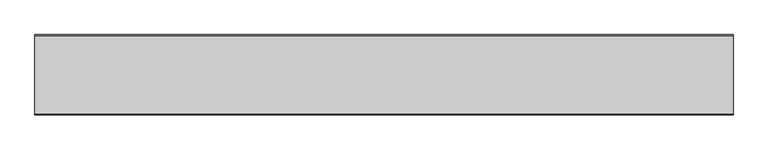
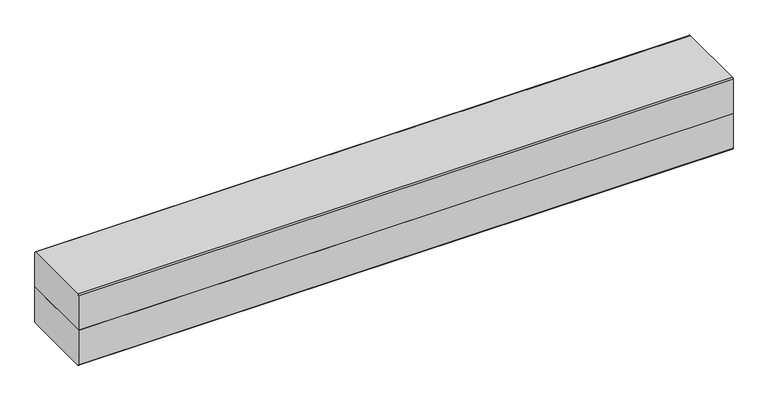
"""IFC4 building model written with IfcOpenShell, lengths in millimetres: proxy geometry, Weiku - Caixa de Persiana : Weiku - Persiana 230mm x 230mm."""

from ifc_helpers import new_model, si_unit, point, frame, frame_2d, origin, place, context, project, spatial, polyline, circle_curve, trimmed, segment, composite_curve, outline, extrude, source, transform, mapped, element, save


def generic_models_83715a78(model_context):
    return source(origin(), model_context, "Body", "SweptSolid", [
        extrude(outline(composite_curve([segment(polyline([(-115.0, 0.0), (115.0, 0.0), (115.0, -111.0)]), True, "CONTINUOUS"), segment(trimmed(circle_curve(frame_2d((111.0, -111.0)), 4.0), [point((115.0, -111.0))], [point((111.0, -115.0))], False, "CARTESIAN"), True, "CONTINUOUS"), segment(polyline([(111.0, -115.0), (-111.0, -115.0)]), True, "CONTINUOUS"), segment(trimmed(circle_curve(frame_2d((-111.0, -111.0)), 4.0), [point((-111.0, -115.0))], [point((-115.0, -111.0))], False, "CARTESIAN"), True, "CONTINUOUS"), segment(polyline([(-115.0, -111.0), (-115.0, 0.0)]), True, "CONTINUOUS")], self_intersect=False)), frame((-997.0, 0.0, 0.0), z_axis=(1.0, 0.0, 0.0), x_axis=(0.0, 1.0, 0.0)), (0.0, 0.0, 1.0), 1994.0),
        extrude(outline(composite_curve([segment(polyline([(-115.0, 0.0), (-115.0, 111.0)]), True, "CONTINUOUS"), segment(trimmed(circle_curve(frame_2d((-111.0, 111.0)), 4.0), [point((-115.0, 111.0))], [point((-111.0, 115.0))], False, "CARTESIAN"), True, "CONTINUOUS"), segment(polyline([(-111.0, 115.0), (111.0, 115.0)]), True, "CONTINUOUS"), segment(trimmed(circle_curve(frame_2d((111.0, 111.0)), 4.0), [point((111.0, 115.0))], [point((115.0, 111.0))], False, "CARTESIAN"), True, "CONTINUOUS"), segment(polyline([(115.0, 111.0), (115.0, 0.0), (-115.0, 0.0)]), True, "CONTINUOUS")], self_intersect=False)), frame((-997.0, 0.0, 0.0), z_axis=(1.0, 0.0, 0.0), x_axis=(0.0, 1.0, 0.0)), (0.0, 0.0, 1.0), 1994.0),
    ])


if __name__ == "__main__":
    model = new_model("IFC4")
    model_context = context("Model", 3, world=origin())
    ifc_project = project(units=[si_unit("LENGTHUNIT", "METRE", prefix="MILLI")], contexts=[model_context])
    site = spatial("IfcSite", under=ifc_project)
    building = spatial("IfcBuilding", under=site)
    placement = place(None, origin())
    generic_models_shape = generic_models_83715a78(model_context)
    element("IfcBuildingElementProxy", 1, Name="Weiku - Caixa de Persiana : Weiku - Persiana 230mm x 230mm", ObjectType="Weiku - Caixa de Persiana : Weiku - Persiana 230mm x 230mm", at=placement, inside=building, context=model_context, shape_type="MappedRepresentation", body=[
        mapped(generic_models_shape, transform((0.0, 0.0, 0.0), x_axis=(1.0, 0.0, 0.0), y_axis=(0.0, 1.0, 0.0), z_axis=(0.0, 0.0, 1.0))),
    ])
    save(model, "model.ifc")
